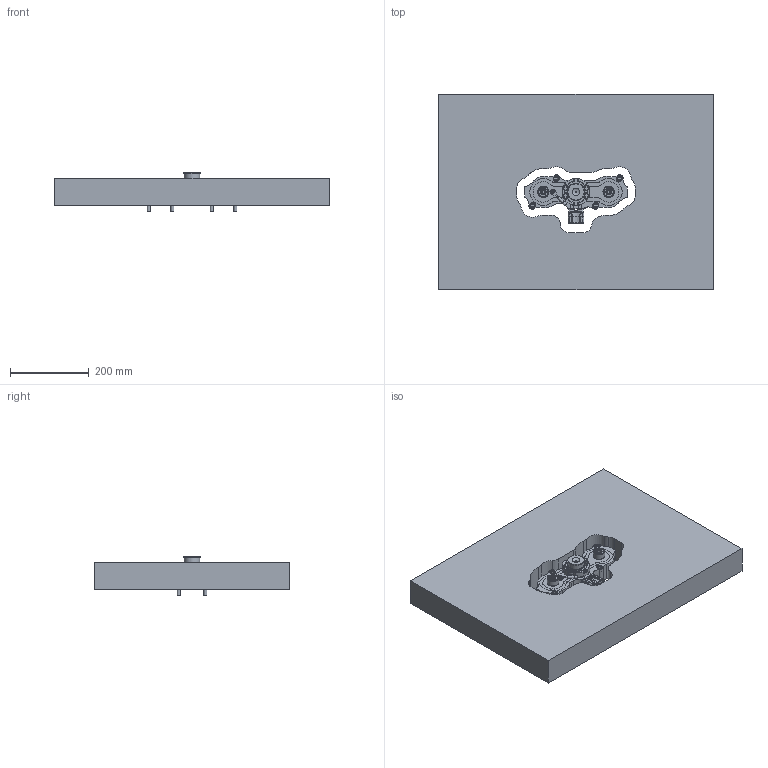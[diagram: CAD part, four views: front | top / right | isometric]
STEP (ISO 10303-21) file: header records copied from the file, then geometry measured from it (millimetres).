
FILE_DESCRIPTION(('STEP AP214'),'1');
FILE_NAME('D:/Trabalho/Standa_library/MF_080X080_BIM18.step','2010-05-19T10:03:53',(' '),(' '),'Spatial InterOp 3D',' ',' ');
FILE_SCHEMA(('automotive_design'));
Length unit declared in the file: millimetre
Products named in the file (33): @28; @32; @34; @36; @38; @40; @42; @44; @46; @48; @50; @52; @54; @56; @58; @60; @62; @64; @66; @68; @70; @72; @74; @76; @78; @80; @82; @84; @86; @88; @90; @92; @94
Bounding box: 696 x 496 x 99 mm (x, y, z)
Volume: 22572421.7 mm3; surface area: 1059910.8 mm2
Topology: 33 solids, 33 shells, 1536 faces, 3760 edges, 2352 vertices
Faces by surface type: plane 623, cylinder 337, cone 254, torus 166, bspline 121, extrusion 25, sphere 8, revolution 2
Full cylindrical faces by diameter (mm): 3.3 x2, 4 x3, 4.2 x1, 4.5 x1, 5 x5, 6 x10, 6.5 x4, 6.7 x10, 6.8 x1, 7 x1, 7.3 x1, 7.5 x1, 8 x17, 9 x4, 9.5 x2, 10 x11, 11 x3, 12 x2, 13 x8, 14 x2, 15 x4, 22.5 x1, 26 x2, 29.2 x3, 40 x1, 41 x1, 42.5 x1, 70 x1
Entity records: 63502 total; most frequent: CARTESIAN_POINT 15931, DIRECTION 7308, ORIENTED_EDGE 7014, EDGE_CURVE 3507, AXIS2_PLACEMENT_3D 2856, VERTEX_POINT 2308, EDGE_LOOP 1859, FACE_OUTER_BOUND 1673
